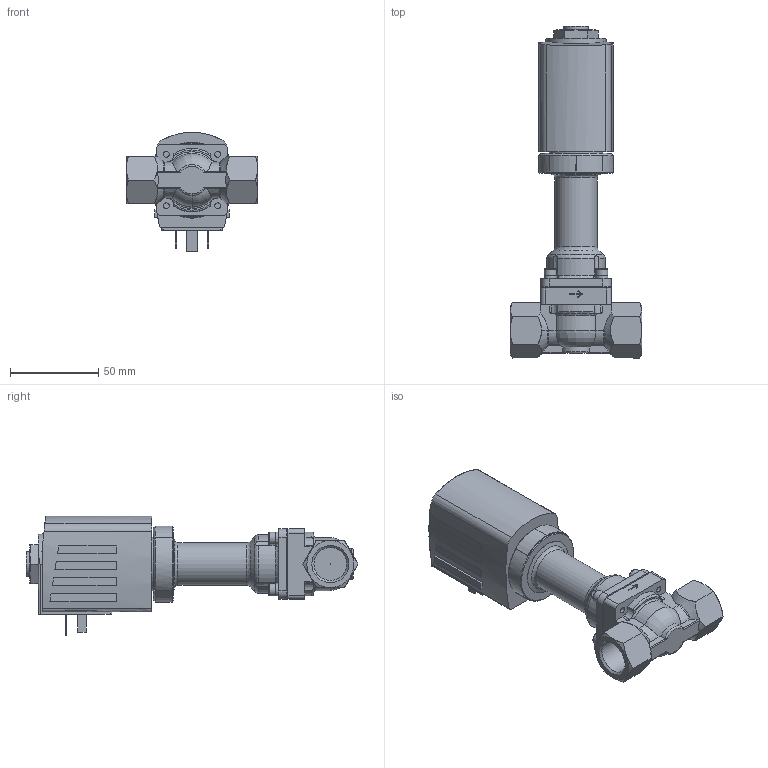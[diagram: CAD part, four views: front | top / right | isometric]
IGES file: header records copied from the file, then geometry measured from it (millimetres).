
Start section: Data from Parasolid IGES Translator 26.0.171, Copyright(c) 2006 Siemens PLM Software. All Rights Reserved.
Global section: file name: 6026-352611-pluger_valve_2_2_Wege_direct-acting.igs; native system: By Siemens PLM Incorporated; preprocessor: XPlus GENERIC/IGES 26.0.171; author: Noname; organization: Noname; date: 20240312.073121; units: millimetre
Bounding box: 74.5 x 187.62 x 67.5 mm (x, y, z)
Surface area: 42574.3 mm2 (no closed solid volume)
Topology: 0 solids, 0 shells, 315 faces, 1596 edges, 1542 vertices
Faces by surface type: extrusion 160, revolution 155
